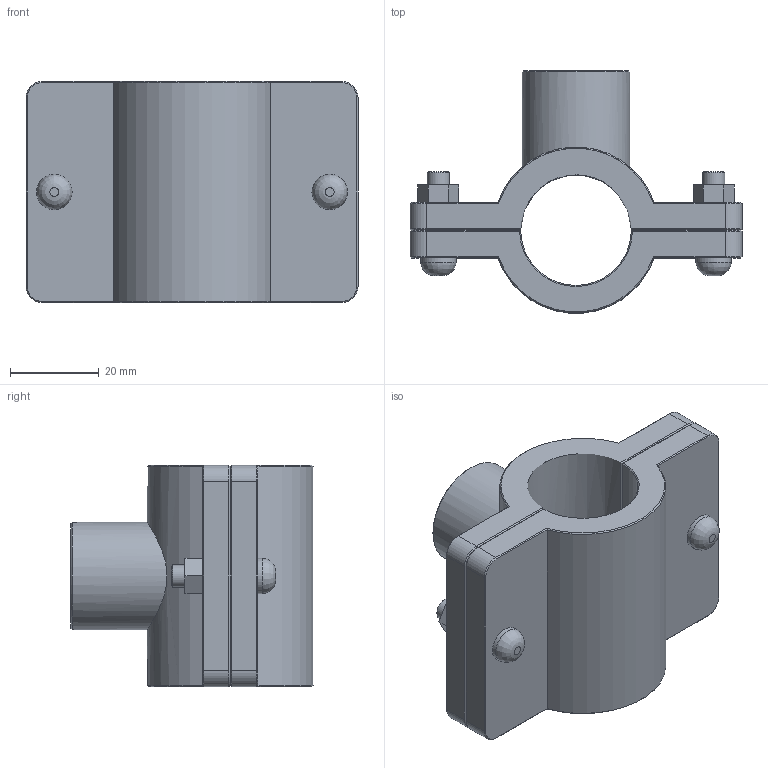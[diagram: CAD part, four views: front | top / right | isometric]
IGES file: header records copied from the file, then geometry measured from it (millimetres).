
Global section: file name: 160760025005_160860025005.ipt; native system: Autodesk Inventor 2015; preprocessor: unknown; author: KIM; date: 20170618.093436; units: millimetre
Bounding box: 75 x 54.69 x 50 mm (x, y, z)
Volume: 57450.6 mm3; surface area: 23287.3 mm2
Topology: 1 solids, 1 shells, 113 faces, 263 edges, 162 vertices
Faces by surface type: plane 64, cone 23, cylinder 17, revolution 9
Full cylindrical faces by diameter (mm): 5 x2, 8 x4, 24.22 x1
